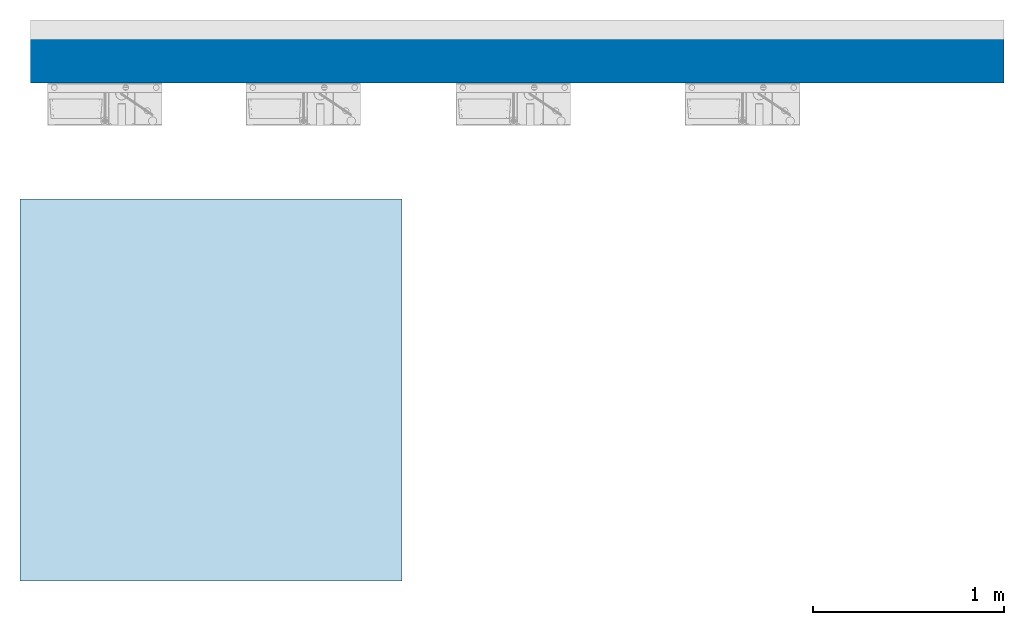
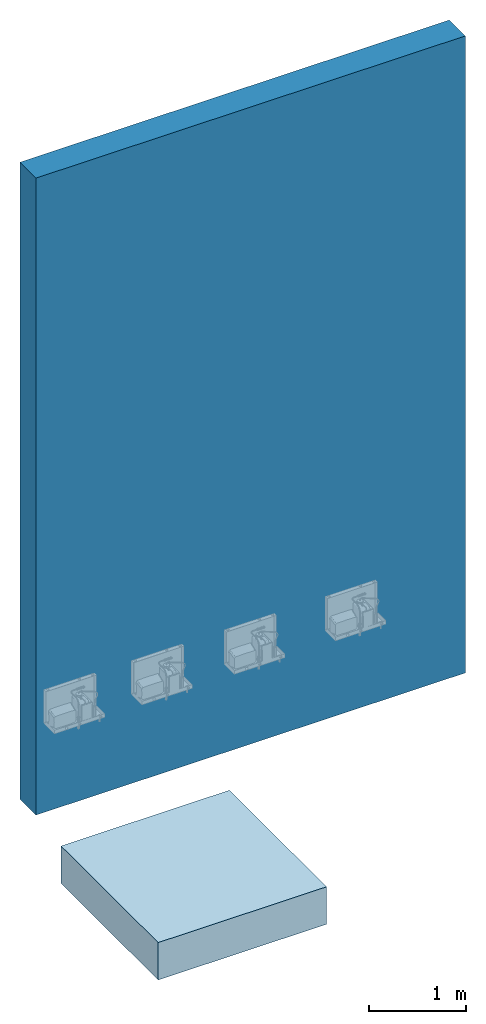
# One storey, part 1 of 2: 1 slab, 1 wall.
"""IFC2X3 building model written with IfcOpenShell, lengths in millimetres."""

from ifc_helpers import new_model, entity, si_unit, converted_unit, derived_unit, direction, frame, frame_2d, origin, origin_2d_with_axis, place, context, subcontext, project, spatial, rectangle, extrude, material, layer, layer_set, layer_usage, type_object, element, save


model = new_model("IFC2X3")

# Units and contexts
model_context = context("Model", 3, precision=0.01, world=origin(), true_north=direction((6.12303176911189e-17, 1.0)))
context_of_model = context(None, 3, precision=0.01, world=origin(), true_north=direction((6.12303176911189e-17, 1.0)))
body_context = subcontext(model_context, "Body", "Model", "MODEL_VIEW")
ifc_project = project(units=[si_unit("LENGTHUNIT", "METRE", prefix="MILLI"), si_unit("AREAUNIT", "SQUARE_METRE"), si_unit("VOLUMEUNIT", "CUBIC_METRE"), converted_unit("PLANEANGLEUNIT", "DEGREE", entity("IfcRatioMeasure", 0.0174532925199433), si_unit("PLANEANGLEUNIT", "RADIAN"), dimensions=[0, 0, 0, 0, 0, 0, 0]), si_unit("MASSUNIT", "GRAM", prefix="KILO"), derived_unit("MASSDENSITYUNIT", [(si_unit("MASSUNIT", "GRAM", prefix="KILO"), 1), (si_unit("LENGTHUNIT", "METRE"), -3)]), derived_unit("MOMENTOFINERTIAUNIT", [(si_unit("LENGTHUNIT", "METRE"), 4)]), si_unit("TIMEUNIT", "SECOND"), si_unit("FREQUENCYUNIT", "HERTZ"), si_unit("THERMODYNAMICTEMPERATUREUNIT", "DEGREE_CELSIUS"), derived_unit("THERMALTRANSMITTANCEUNIT", [(si_unit("MASSUNIT", "GRAM", prefix="KILO"), 1), (si_unit("THERMODYNAMICTEMPERATUREUNIT", "KELVIN"), -1), (si_unit("TIMEUNIT", "SECOND"), -3)]), derived_unit("VOLUMETRICFLOWRATEUNIT", [(si_unit("LENGTHUNIT", "METRE"), 3), (si_unit("TIMEUNIT", "SECOND"), -1)]), si_unit("ELECTRICCURRENTUNIT", "AMPERE"), si_unit("ELECTRICVOLTAGEUNIT", "VOLT"), si_unit("POWERUNIT", "WATT"), si_unit("FORCEUNIT", "NEWTON", prefix="KILO"), si_unit("ILLUMINANCEUNIT", "LUX"), si_unit("LUMINOUSFLUXUNIT", "LUMEN"), si_unit("LUMINOUSINTENSITYUNIT", "CANDELA"), derived_unit("USERDEFINED", [(si_unit("MASSUNIT", "GRAM", prefix="KILO"), -1), (si_unit("LENGTHUNIT", "METRE"), -2), (si_unit("TIMEUNIT", "SECOND"), 3), (si_unit("LUMINOUSFLUXUNIT", "LUMEN"), 1)]), derived_unit("LINEARVELOCITYUNIT", [(si_unit("LENGTHUNIT", "METRE"), 1), (si_unit("TIMEUNIT", "SECOND"), -1)]), si_unit("PRESSUREUNIT", "PASCAL"), derived_unit("USERDEFINED", [(si_unit("LENGTHUNIT", "METRE"), -2), (si_unit("MASSUNIT", "GRAM", prefix="KILO"), 1), (si_unit("TIMEUNIT", "SECOND"), -2)]), derived_unit("LINEARFORCEUNIT", [(si_unit("MASSUNIT", "GRAM", prefix="KILO"), 1), (si_unit("LENGTHUNIT", "METRE"), 1), (si_unit("TIMEUNIT", "SECOND"), -2), (si_unit("LENGTHUNIT", "METRE"), -1)]), derived_unit("PLANARFORCEUNIT", [(si_unit("MASSUNIT", "GRAM", prefix="KILO"), 1), (si_unit("LENGTHUNIT", "METRE"), 1), (si_unit("TIMEUNIT", "SECOND"), -2), (si_unit("LENGTHUNIT", "METRE"), -2)])], contexts=[model_context, context_of_model])

# Site, building, storey
site_placement = place(None, origin())
site = spatial("IfcSite", under=ifc_project, at=site_placement, Name="Default", CompositionType="ELEMENT")
building_placement = place(site_placement, origin())
building = spatial("IfcBuilding", under=site, at=building_placement, Name="n/a", CompositionType="ELEMENT")
storey_placement = place(building_placement, origin())
storey = spatial("IfcBuildingStorey", under=building, at=storey_placement, Name="Level 0", CompositionType="ELEMENT", Elevation=0.0)

# Slab
ifc_material_1 = material(Name="Concrete, Sand/Cement Screed")
ifc_layer_1 = layer(ifc_material_1, 65.0)
ifc_material_2 = material(Name="Rigid insulation")
ifc_layer_2 = layer(ifc_material_2, 80.0)
ifc_material_3 = material(Name="Air")
ifc_layer_3 = layer(ifc_material_3, 150.0)
ifc_material_4 = material(Name="Concrete Masonry, Floor Block")
ifc_layer_4 = layer(ifc_material_4, 100.0)
ifc_material_5 = material(Name="Concrete, Precast")
ifc_layer_5 = layer(ifc_material_5, 75.0)
ifc_layer_set_1 = layer_set([ifc_layer_1, ifc_layer_2, ifc_layer_3, ifc_layer_4, ifc_layer_5], Name="Floor:Floor-Grnd-Susp_65Scr-80Ins-100Blk-75PC")
ifc_layer_usage_1 = layer_usage(ifc_layer_set_1, "AXIS3", "POSITIVE", 0.0)
slab_type = type_object("IfcSlabType", Name="(2)", PredefinedType="FLOOR", material=ifc_layer_set_1)
slab_placement = place(storey_placement, origin())
element("IfcSlab", 1, at=slab_placement, inside=storey, type_object=slab_type, material=ifc_layer_usage_1, ObjectType="Floor:Floor-Grnd-Susp_65Scr-80Ins-100Blk-75PC", PredefinedType="FLOOR", context=body_context, shape_type="SweptSolid", body=[
    extrude(rectangle(XDim=2000.0, YDim=2000.0, at=origin_2d_with_axis()), frame((2617.89542022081, 511.02004687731, 0.0), z_axis=(0.0, 0.0, -1.0), x_axis=(0.0, 1.0, 0.0)), (0.0, 0.0, 1.0), 470.0),
])

# Wall
ifc_material_6 = material(Name="Brick, Horizontal Pattern")
ifc_layer_6 = layer(ifc_material_6, 102.5)
ifc_material_7 = material(Name="Fiberglass Batt")
ifc_layer_7 = layer(ifc_material_7, 75.0)
ifc_material_8 = material(Name="Concrete Masonry Units")
ifc_layer_8 = layer(ifc_material_8, 140.0)
ifc_material_9 = material(Name="Plaster")
ifc_layer_9 = layer(ifc_material_9, 12.5)
ifc_layer_set_2 = layer_set([ifc_layer_6, ifc_layer_7, ifc_layer_8, ifc_layer_9], Name="Basic Wall:Wall-Ext_102Bwk-75Ins-140Blk-12P_SoldierBanding")
ifc_layer_usage_2 = layer_usage(ifc_layer_set_2, "AXIS2", "NEGATIVE", 165.0)
wall_type = type_object("IfcWallType", Name="(4)", PredefinedType="STANDARD", material=ifc_layer_set_2)
wall_placement = place(storey_placement, frame((1672.990037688, 2284.77861690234, 0.0)))
element("IfcWallStandardCase", 2, at=wall_placement, inside=storey, type_object=wall_type, material=ifc_layer_usage_2, Name="(3)", ObjectType="Basic Wall:Wall-Ext_102Bwk-75Ins-140Blk-12P_SoldierBanding", context=body_context, shape_type="SweptSolid", body=[
    extrude(rectangle(XDim=5100.0, YDim=330.0, at=frame_2d((2550.0, 7.105427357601e-14), x_axis=(-1.0, 0.0))), origin(), (0.0, 0.0, 1.0), 8000.0),
])

save(model, "model.ifc")
